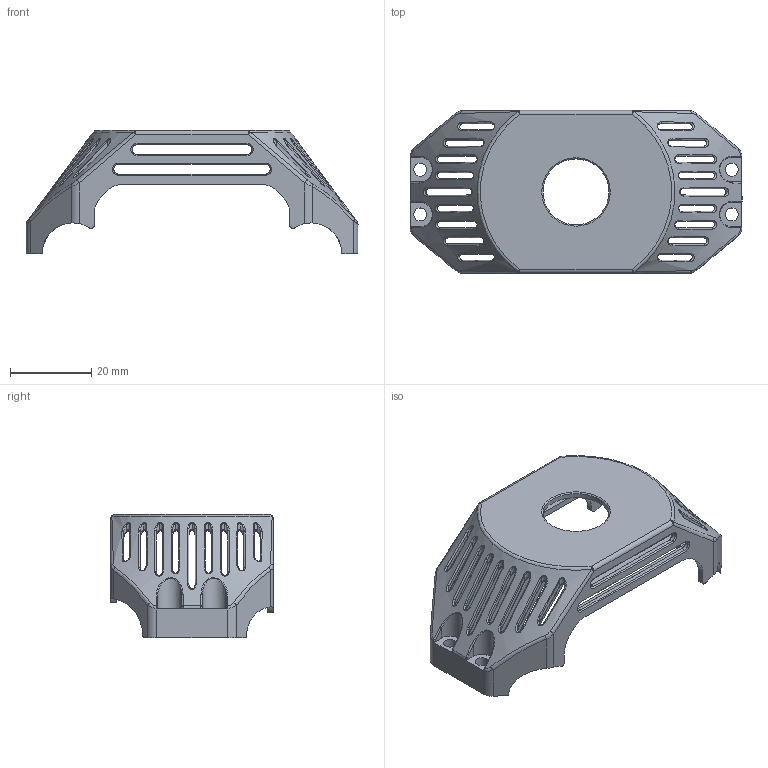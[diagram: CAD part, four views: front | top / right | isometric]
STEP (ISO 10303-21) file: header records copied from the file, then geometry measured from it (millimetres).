
FILE_DESCRIPTION (( 'STEP AP203' ), '1' );
FILE_NAME ('BR01_CHEST_COVER.STEP');
FILE_SCHEMA (( 'CONFIG_CONTROL_DESIGN' ));
Length unit declared in the file: millimetre
Products named in the file (1): BR01_CHEST_COVER
Bounding box: 81.5 x 40 x 30.2 mm (x, y, z)
Volume: 9147.3 mm3; surface area: 13204.9 mm2
Topology: 1 solids, 1 shells, 722 faces, 1926 edges, 1190 vertices
Faces by surface type: bspline 302, cylinder 220, plane 170, cone 22, sphere 8
Entity records: 35093 total; most frequent: CARTESIAN_POINT 19969, ORIENTED_EDGE 3828, DIRECTION 2190, EDGE_CURVE 1914, VERTEX_POINT 1190, B_SPLINE_CURVE_WITH_KNOTS 886, AXIS2_PLACEMENT_3D 815, EDGE_LOOP 772
